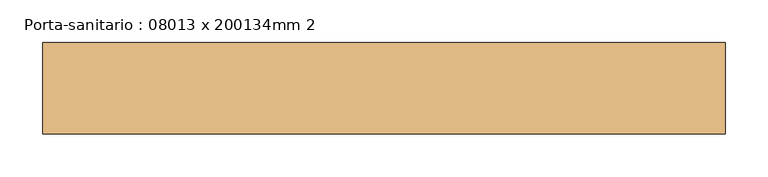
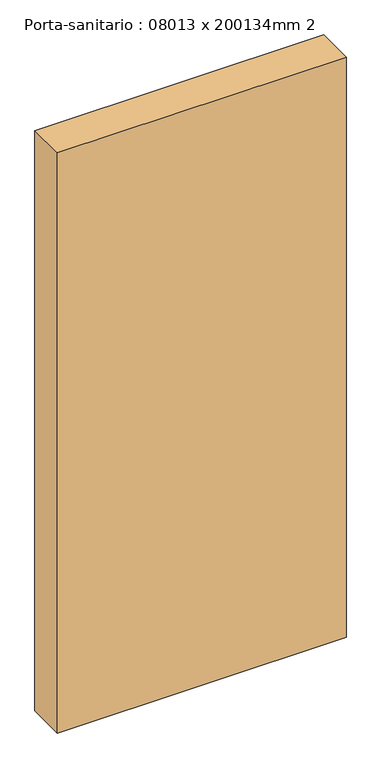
"""IFC4 building model written with IfcOpenShell, lengths in millimetres: door geometry, Porta-sanitario : 08013 x 200134mm 2."""

from ifc_helpers import new_model, si_unit, frame, origin, place, context, project, spatial, polyline, outline, extrude, source, transform, mapped, element, save


def porta_sanitario_08013_x_200134mm_2_4930843f(model_context):
    return source(origin(), model_context, "Body", "SweptSolid", [
        extrude(outline(polyline([(400.05, -31.0), (-400.05, -31.0), (-400.05, 76.2), (400.05, 76.2), (400.05, -31.0)])), frame((0.0, 0.0, 300.0), z_axis=(0.0, 0.0, 1.0), x_axis=(1.0, 0.0, 0.0)), (0.0, 0.0, 1.0), 1700.0),
    ])


if __name__ == "__main__":
    model = new_model("IFC4")
    model_context = context("Model", 3, world=origin())
    ifc_project = project(units=[si_unit("LENGTHUNIT", "METRE", prefix="MILLI")], contexts=[model_context])
    site = spatial("IfcSite", under=ifc_project)
    building = spatial("IfcBuilding", under=site)
    placement = place(None, origin())
    porta_sanitario_08013_x_200134mm_2_shape = porta_sanitario_08013_x_200134mm_2_4930843f(model_context)
    element("IfcDoor", 1, ObjectType="Porta-sanitario : 08013 x 200134mm 2", at=placement, inside=building, context=model_context, shape_type="MappedRepresentation", body=[
        mapped(porta_sanitario_08013_x_200134mm_2_shape, transform((0.0, 0.0, 0.0), x_axis=(1.0, 0.0, 0.0), y_axis=(0.0, 1.0, 0.0), z_axis=(0.0, 0.0, 1.0))),
    ])
    save(model, "model.ifc")
